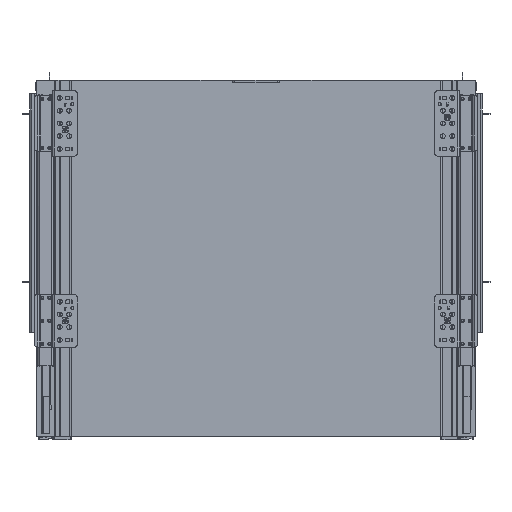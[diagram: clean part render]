
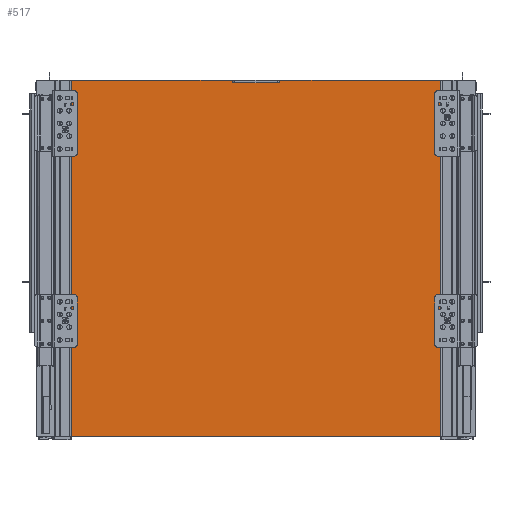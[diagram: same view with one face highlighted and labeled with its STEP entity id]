
A CAD part, front view. The second image highlights one B-rep face of the part: STEP entity #517.
In plain terms, the highlighted planar face has unit normal (0, -1, 0).
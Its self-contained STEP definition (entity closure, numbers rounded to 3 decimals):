
#91=DIRECTION('',(1.,0.,0.));
#92=VECTOR('',#91,60.);
#93=CARTESIAN_POINT('',(-30.,0.,-2.8));
#94=LINE('',#93,#92);
#98=DIRECTION('',(0.,0.,-1.));
#99=VECTOR('',#98,2.8);
#100=CARTESIAN_POINT('',(30.,0.,0.));
#101=LINE('',#100,#99);
#105=DIRECTION('',(0.,0.,-1.));
#106=VECTOR('',#105,447.);
#107=CARTESIAN_POINT('',(-252.,0.,0.));
#108=LINE('',#107,#106);
#112=DIRECTION('',(0.,0.,-1.));
#113=VECTOR('',#112,2.8);
#114=CARTESIAN_POINT('',(-30.,0.,0.));
#115=LINE('',#114,#113);
#141=DIRECTION('',(1.,0.,0.));
#142=VECTOR('',#141,222.);
#143=CARTESIAN_POINT('',(-252.,0.,0.));
#144=LINE('',#143,#142);
#169=DIRECTION('',(1.,0.,0.));
#170=VECTOR('',#169,222.);
#171=CARTESIAN_POINT('',(30.,0.,0.));
#172=LINE('',#171,#170);
#237=DIRECTION('',(0.,0.,-1.));
#238=VECTOR('',#237,447.);
#239=CARTESIAN_POINT('',(252.,0.,0.));
#240=LINE('',#239,#238);
#293=DIRECTION('',(1.,0.,0.));
#294=VECTOR('',#293,504.);
#295=CARTESIAN_POINT('',(-252.,0.,-447.));
#296=LINE('',#295,#294);
#373=CARTESIAN_POINT('',(-252.,0.,0.));
#375=VERTEX_POINT('',#373);
#378=CARTESIAN_POINT('',(252.,0.,0.));
#379=VERTEX_POINT('',#378);
#380=CARTESIAN_POINT('',(-252.,0.,-447.));
#381=CARTESIAN_POINT('',(252.,0.,-447.));
#382=VERTEX_POINT('',#380);
#383=VERTEX_POINT('',#381);
#408=CARTESIAN_POINT('',(-30.,0.,-2.8));
#409=CARTESIAN_POINT('',(30.,0.,-2.8));
#410=VERTEX_POINT('',#408);
#411=VERTEX_POINT('',#409);
#412=CARTESIAN_POINT('',(-30.,0.,0.));
#413=VERTEX_POINT('',#412);
#414=CARTESIAN_POINT('',(30.,0.,0.));
#415=VERTEX_POINT('',#414);
#496=CARTESIAN_POINT('',(-252.,0.,0.));
#497=DIRECTION('',(0.,-1.,0.));
#498=DIRECTION('',(1.,0.,0.));
#499=AXIS2_PLACEMENT_3D('',#496,#497,#498);
#500=PLANE('',#499);
#501=ORIENTED_EDGE('',*,*,#460,.T.);
#503=ORIENTED_EDGE('',*,*,#502,.F.);
#505=ORIENTED_EDGE('',*,*,#504,.T.);
#507=ORIENTED_EDGE('',*,*,#506,.T.);
#509=ORIENTED_EDGE('',*,*,#508,.F.);
#511=ORIENTED_EDGE('',*,*,#510,.F.);
#513=ORIENTED_EDGE('',*,*,#512,.T.);
#514=ORIENTED_EDGE('',*,*,#489,.T.);
#515=EDGE_LOOP('',(#501,#503,#505,#507,#509,#511,#513,#514));
#516=FACE_OUTER_BOUND('',#515,.F.);
#460=EDGE_CURVE('',#410,#411,#94,.T.);
#489=EDGE_CURVE('',#413,#410,#115,.T.);
#502=EDGE_CURVE('',#415,#411,#101,.T.);
#504=EDGE_CURVE('',#415,#379,#172,.T.);
#506=EDGE_CURVE('',#379,#383,#240,.T.);
#508=EDGE_CURVE('',#382,#383,#296,.T.);
#510=EDGE_CURVE('',#375,#382,#108,.T.);
#512=EDGE_CURVE('',#375,#413,#144,.T.);
#517=ADVANCED_FACE('',(#516),#500,.T.);
